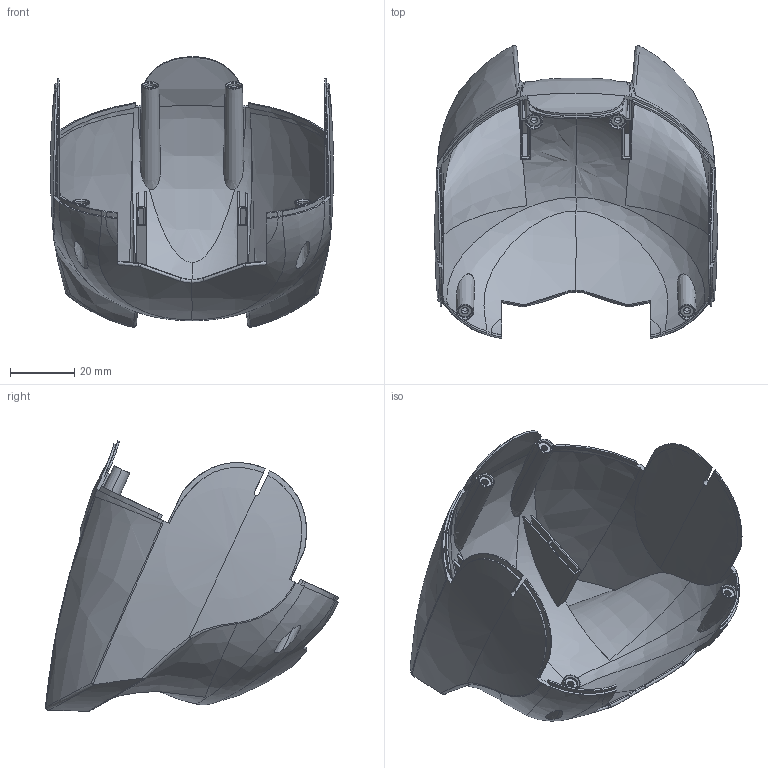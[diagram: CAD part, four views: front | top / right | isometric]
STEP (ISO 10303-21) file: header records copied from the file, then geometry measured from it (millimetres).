
FILE_DESCRIPTION((''),'2;1');
FILE_NAME('DARWIN-OP2_CVR_HEAD_B_PRT','2016-08-12T',('kimdolyang'),(''),'PRO/ENGINEER BY PARAMETRIC TECHNOLOGY CORPORATION, 2013410','PRO/ENGINEER BY PARAMETRIC TECHNOLOGY CORPORATION, 2013410','');
FILE_SCHEMA(('AUTOMOTIVE_DESIGN { 1 0 10303 214 1 1 1 1 }'));
Length unit declared in the file: millimetre
Products named in the file (1): DARWIN-OP2_CVR_HEAD_B_PRT
Bounding box: 87.98 x 91.01 x 84.05 mm (x, y, z)
Volume: 27885.3 mm3; surface area: 44076.7 mm2
Topology: 1 solids, 1 shells, 280 faces, 766 edges, 476 vertices
Faces by surface type: bspline 84, plane 82, cylinder 44, cone 22, extrusion 20, sphere 18, torus 6, revolution 4
Entity records: 20430 total; most frequent: CARTESIAN_POINT 11970, ORIENTED_EDGE 1492, DIRECTION 900, PRESENTATION_STYLE_ASSIGNMENT 747, STYLED_ITEM 747, CURVE_STYLE 746, EDGE_CURVE 746, VERTEX_POINT 476
